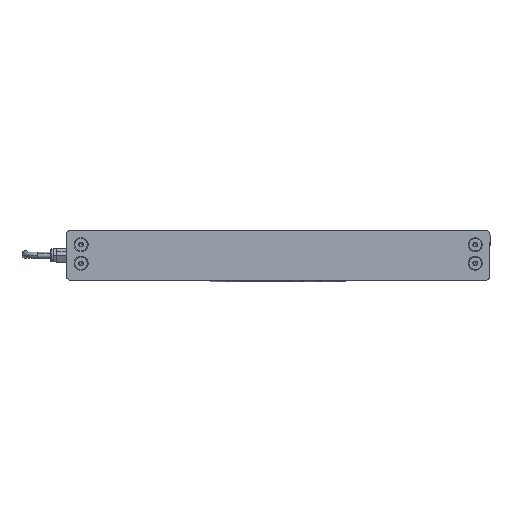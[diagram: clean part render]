
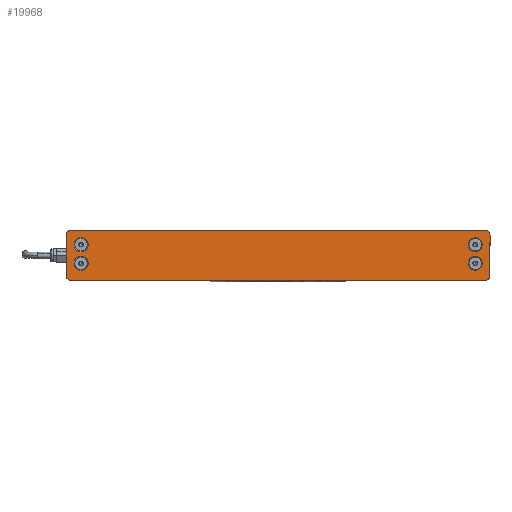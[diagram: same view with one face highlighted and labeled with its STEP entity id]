
A CAD part, left-side view. The second image highlights one B-rep face of the part: STEP entity #19968.
In plain terms, the highlighted planar face has unit normal (-1, 0, 0) as drawn and (0, 0, -1) by its records, which use the part's own axes.
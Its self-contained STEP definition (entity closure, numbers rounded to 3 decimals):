
#116 = CIRCLE ( 'NONE', #9378, 5.6 ) ;
#420 = EDGE_CURVE ( 'NONE', #11283, #18594, #10640, .T. ) ;
#571 = DIRECTION ( 'NONE',  ( 0., 0., -1. ) ) ;
#629 = CARTESIAN_POINT ( 'NONE',  ( 168., -16., 0. ) ) ;
#691 = FACE_OUTER_BOUND ( 'NONE', #2039, .T. ) ;
#823 = CARTESIAN_POINT ( 'NONE',  ( 161.9, -6.3, 0. ) ) ;
#871 = CARTESIAN_POINT ( 'NONE',  ( -168., -16., 0. ) ) ;
#1006 = CARTESIAN_POINT ( 'NONE',  ( 168., -16., 0. ) ) ;
#1009 = LINE ( 'NONE', #21424, #16252 ) ;
#1088 = CIRCLE ( 'NONE', #15817, 5.6 ) ;
#1472 = DIRECTION ( 'NONE',  ( 0., 0., 1. ) ) ;
#1507 = CARTESIAN_POINT ( 'NONE',  ( 150.7, -6.3, 0. ) ) ;
#1526 = VERTEX_POINT ( 'NONE', #1507 ) ;
#1881 = EDGE_CURVE ( 'NONE', #9247, #10511, #14025, .T. ) ;
#2010 = VERTEX_POINT ( 'NONE', #16341 ) ;
#2039 = EDGE_LOOP ( 'NONE', ( #20842, #11684, #18432, #24823, #23452, #21561, #12969, #13277 ) ) ;
#2179 = DIRECTION ( 'NONE',  ( -1., 0., 0. ) ) ;
#2316 = DIRECTION ( 'NONE',  ( -1., 0., 0. ) ) ;
#2443 = EDGE_CURVE ( 'NONE', #2010, #25256, #25102, .T. ) ;
#2584 = CARTESIAN_POINT ( 'NONE',  ( 164., -16., 0. ) ) ;
#2635 = DIRECTION ( 'NONE',  ( -1., 0., 0. ) ) ;
#2651 = ORIENTED_EDGE ( 'NONE', *, *, #420, .F. ) ;
#2697 = CARTESIAN_POINT ( 'NONE',  ( -156.3, 8.5, 0. ) ) ;
#2885 = CARTESIAN_POINT ( 'NONE',  ( -156.3, 8.5, 0. ) ) ;
#3193 = EDGE_LOOP ( 'NONE', ( #21844, #2651 ) ) ;
#3562 = EDGE_CURVE ( 'NONE', #1526, #17725, #4501, .T. ) ;
#3937 = EDGE_CURVE ( 'NONE', #10511, #23191, #17509, .T. ) ;
#4290 = DIRECTION ( 'NONE',  ( 0., 0., -1. ) ) ;
#4327 = EDGE_CURVE ( 'NONE', #17725, #1526, #12140, .T. ) ;
#4341 = CARTESIAN_POINT ( 'NONE',  ( -161.9, -6.3, 0. ) ) ;
#4501 = CIRCLE ( 'NONE', #22545, 5.6 ) ;
#4615 = AXIS2_PLACEMENT_3D ( 'NONE', #2885, #19084, #14725 ) ;
#5277 = CARTESIAN_POINT ( 'NONE',  ( -164., 20., 0. ) ) ;
#5382 = VECTOR ( 'NONE', #13803, 1000. ) ;
#5474 = AXIS2_PLACEMENT_3D ( 'NONE', #24757, #20662, #2635 ) ;
#5927 = CARTESIAN_POINT ( 'NONE',  ( 168., 16., 0. ) ) ;
#5949 = CARTESIAN_POINT ( 'NONE',  ( 164., 16., 0. ) ) ;
#5994 = EDGE_LOOP ( 'NONE', ( #8088, #15098 ) ) ;
#6324 = DIRECTION ( 'NONE',  ( -1., 0., 0. ) ) ;
#6335 = EDGE_CURVE ( 'NONE', #23191, #2010, #17945, .T. ) ;
#6584 = AXIS2_PLACEMENT_3D ( 'NONE', #8375, #16158, #2316 ) ;
#6698 = EDGE_CURVE ( 'NONE', #7995, #6939, #10099, .T. ) ;
#6869 = AXIS2_PLACEMENT_3D ( 'NONE', #11867, #20277, #6324 ) ;
#6939 = VERTEX_POINT ( 'NONE', #4341 ) ;
#7385 = DIRECTION ( 'NONE',  ( 0., 0., 1. ) ) ;
#7514 = DIRECTION ( 'NONE',  ( -1., 0., 0. ) ) ;
#7995 = VERTEX_POINT ( 'NONE', #21074 ) ;
#8088 = ORIENTED_EDGE ( 'NONE', *, *, #3562, .F. ) ;
#8295 = CARTESIAN_POINT ( 'NONE',  ( -156.3, -6.3, 0. ) ) ;
#8375 = CARTESIAN_POINT ( 'NONE',  ( -164., 16., 0. ) ) ;
#8421 = DIRECTION ( 'NONE',  ( 0., 1., 0. ) ) ;
#9247 = VERTEX_POINT ( 'NONE', #5927 ) ;
#9378 = AXIS2_PLACEMENT_3D ( 'NONE', #8295, #16206, #9892 ) ;
#9402 = VERTEX_POINT ( 'NONE', #10784 ) ;
#9611 = DIRECTION ( 'NONE',  ( -1., 0., 0. ) ) ;
#9892 = DIRECTION ( 'NONE',  ( -1., 0., 0. ) ) ;
#10099 = CIRCLE ( 'NONE', #5474, 5.6 ) ;
#10233 = EDGE_CURVE ( 'NONE', #18594, #11283, #20154, .T. ) ;
#10511 = VERTEX_POINT ( 'NONE', #13791 ) ;
#10620 = DIRECTION ( 'NONE',  ( 0., 0., 1. ) ) ;
#10640 = CIRCLE ( 'NONE', #25346, 5.6 ) ;
#10784 = CARTESIAN_POINT ( 'NONE',  ( 150.7, 8.5, 0. ) ) ;
#11283 = VERTEX_POINT ( 'NONE', #16075 ) ;
#11515 = ORIENTED_EDGE ( 'NONE', *, *, #6698, .F. ) ;
#11684 = ORIENTED_EDGE ( 'NONE', *, *, #23244, .F. ) ;
#11852 = CARTESIAN_POINT ( 'NONE',  ( 161.9, 8.5, 0. ) ) ;
#11866 = CARTESIAN_POINT ( 'NONE',  ( -164., 20., 0. ) ) ;
#11867 = CARTESIAN_POINT ( 'NONE',  ( 156.3, 8.5, 0. ) ) ;
#12140 = CIRCLE ( 'NONE', #19282, 5.6 ) ;
#12277 = VERTEX_POINT ( 'NONE', #18217 ) ;
#12310 = VERTEX_POINT ( 'NONE', #17689 ) ;
#12357 = AXIS2_PLACEMENT_3D ( 'NONE', #2584, #10620, #18656 ) ;
#12683 = FACE_BOUND ( 'NONE', #22994, .T. ) ;
#12969 = ORIENTED_EDGE ( 'NONE', *, *, #6335, .F. ) ;
#13277 = ORIENTED_EDGE ( 'NONE', *, *, #3937, .F. ) ;
#13709 = ORIENTED_EDGE ( 'NONE', *, *, #20685, .F. ) ;
#13791 = CARTESIAN_POINT ( 'NONE',  ( 164., 20., 0. ) ) ;
#13803 = DIRECTION ( 'NONE',  ( -1., 0., 0. ) ) ;
#14025 = CIRCLE ( 'NONE', #23268, 4. ) ;
#14608 = EDGE_LOOP ( 'NONE', ( #13709, #11515 ) ) ;
#14725 = DIRECTION ( 'NONE',  ( -1., 0., 0. ) ) ;
#14786 = FACE_BOUND ( 'NONE', #5994, .T. ) ;
#14820 = AXIS2_PLACEMENT_3D ( 'NONE', #19018, #18890, #22957 ) ;
#14923 = PLANE ( 'NONE',  #14820 ) ;
#15014 = CARTESIAN_POINT ( 'NONE',  ( 156.3, 8.5, 0. ) ) ;
#15069 = VERTEX_POINT ( 'NONE', #1006 ) ;
#15098 = ORIENTED_EDGE ( 'NONE', *, *, #4327, .F. ) ;
#15148 = ORIENTED_EDGE ( 'NONE', *, *, #24733, .F. ) ;
#15435 = CARTESIAN_POINT ( 'NONE',  ( 156.3, -6.3, 0. ) ) ;
#15758 = VECTOR ( 'NONE', #20627, 1000. ) ;
#15817 = AXIS2_PLACEMENT_3D ( 'NONE', #15014, #17382, #9611 ) ;
#16075 = CARTESIAN_POINT ( 'NONE',  ( -150.7, 8.5, 0. ) ) ;
#16158 = DIRECTION ( 'NONE',  ( 0., 0., 1. ) ) ;
#16206 = DIRECTION ( 'NONE',  ( 0., 0., -1. ) ) ;
#16252 = VECTOR ( 'NONE', #24970, 1000. ) ;
#16341 = CARTESIAN_POINT ( 'NONE',  ( -168., 16., 0. ) ) ;
#16799 = CARTESIAN_POINT ( 'NONE',  ( -168., -16., 0. ) ) ;
#17068 = CARTESIAN_POINT ( 'NONE',  ( -161.9, 8.5, 0. ) ) ;
#17173 = FACE_BOUND ( 'NONE', #14608, .T. ) ;
#17382 = DIRECTION ( 'NONE',  ( 0., 0., -1. ) ) ;
#17509 = LINE ( 'NONE', #5277, #5382 ) ;
#17689 = CARTESIAN_POINT ( 'NONE',  ( -164., -20., 0. ) ) ;
#17725 = VERTEX_POINT ( 'NONE', #823 ) ;
#17945 = CIRCLE ( 'NONE', #6584, 4. ) ;
#18217 = CARTESIAN_POINT ( 'NONE',  ( 164., -20., 0. ) ) ;
#18228 = CIRCLE ( 'NONE', #6869, 5.6 ) ;
#18432 = ORIENTED_EDGE ( 'NONE', *, *, #21109, .F. ) ;
#18510 = DIRECTION ( 'NONE',  ( -1., 0., 0. ) ) ;
#18594 = VERTEX_POINT ( 'NONE', #17068 ) ;
#18656 = DIRECTION ( 'NONE',  ( 1., 0., 0. ) ) ;
#18890 = DIRECTION ( 'NONE',  ( 0., 0., -1. ) ) ;
#19018 = CARTESIAN_POINT ( 'NONE',  ( 164., 16., 0. ) ) ;
#19084 = DIRECTION ( 'NONE',  ( 0., 0., -1. ) ) ;
#19282 = AXIS2_PLACEMENT_3D ( 'NONE', #21917, #4290, #2179 ) ;
#19968 = ADVANCED_FACE ( 'NONE', ( #12683, #14786, #20853, #17173, #691 ), #14923, .T. ) ;
#20154 = CIRCLE ( 'NONE', #4615, 5.6 ) ;
#20277 = DIRECTION ( 'NONE',  ( 0., 0., -1. ) ) ;
#20617 = EDGE_CURVE ( 'NONE', #9402, #24891, #18228, .T. ) ;
#20627 = DIRECTION ( 'NONE',  ( 0., -1., 0. ) ) ;
#20662 = DIRECTION ( 'NONE',  ( 0., 0., -1. ) ) ;
#20685 = EDGE_CURVE ( 'NONE', #6939, #7995, #116, .T. ) ;
#20757 = CIRCLE ( 'NONE', #12357, 4. ) ;
#20779 = LINE ( 'NONE', #629, #22474 ) ;
#20842 = ORIENTED_EDGE ( 'NONE', *, *, #1881, .F. ) ;
#20853 = FACE_BOUND ( 'NONE', #3193, .T. ) ;
#21074 = CARTESIAN_POINT ( 'NONE',  ( -150.7, -6.3, 0. ) ) ;
#21109 = EDGE_CURVE ( 'NONE', #12277, #15069, #20757, .T. ) ;
#21424 = CARTESIAN_POINT ( 'NONE',  ( -164., -20., 0. ) ) ;
#21471 = DIRECTION ( 'NONE',  ( -1., 0., 0. ) ) ;
#21561 = ORIENTED_EDGE ( 'NONE', *, *, #2443, .F. ) ;
#21844 = ORIENTED_EDGE ( 'NONE', *, *, #10233, .F. ) ;
#21917 = CARTESIAN_POINT ( 'NONE',  ( 156.3, -6.3, 0. ) ) ;
#22474 = VECTOR ( 'NONE', #8421, 1000. ) ;
#22545 = AXIS2_PLACEMENT_3D ( 'NONE', #15435, #23451, #21471 ) ;
#22957 = DIRECTION ( 'NONE',  ( -1., 0., 0. ) ) ;
#22994 = EDGE_LOOP ( 'NONE', ( #24999, #15148 ) ) ;
#23068 = EDGE_CURVE ( 'NONE', #25256, #12310, #25847, .T. ) ;
#23191 = VERTEX_POINT ( 'NONE', #11866 ) ;
#23244 = EDGE_CURVE ( 'NONE', #15069, #9247, #20779, .T. ) ;
#23268 = AXIS2_PLACEMENT_3D ( 'NONE', #5949, #1472, #23461 ) ;
#23451 = DIRECTION ( 'NONE',  ( 0., 0., -1. ) ) ;
#23452 = ORIENTED_EDGE ( 'NONE', *, *, #23068, .F. ) ;
#23461 = DIRECTION ( 'NONE',  ( -1., 0., 0. ) ) ;
#24733 = EDGE_CURVE ( 'NONE', #24891, #9402, #1088, .T. ) ;
#24757 = CARTESIAN_POINT ( 'NONE',  ( -156.3, -6.3, 0. ) ) ;
#24823 = ORIENTED_EDGE ( 'NONE', *, *, #25086, .F. ) ;
#24891 = VERTEX_POINT ( 'NONE', #11852 ) ;
#24970 = DIRECTION ( 'NONE',  ( 1., 0., 0. ) ) ;
#24999 = ORIENTED_EDGE ( 'NONE', *, *, #20617, .F. ) ;
#25086 = EDGE_CURVE ( 'NONE', #12310, #12277, #1009, .T. ) ;
#25102 = LINE ( 'NONE', #871, #15758 ) ;
#25256 = VERTEX_POINT ( 'NONE', #16799 ) ;
#25346 = AXIS2_PLACEMENT_3D ( 'NONE', #2697, #571, #18510 ) ;
#25409 = AXIS2_PLACEMENT_3D ( 'NONE', #25666, #7385, #7514 ) ;
#25666 = CARTESIAN_POINT ( 'NONE',  ( -164., -16., 0. ) ) ;
#25847 = CIRCLE ( 'NONE', #25409, 4. ) ;
